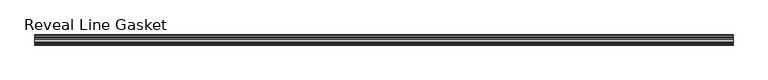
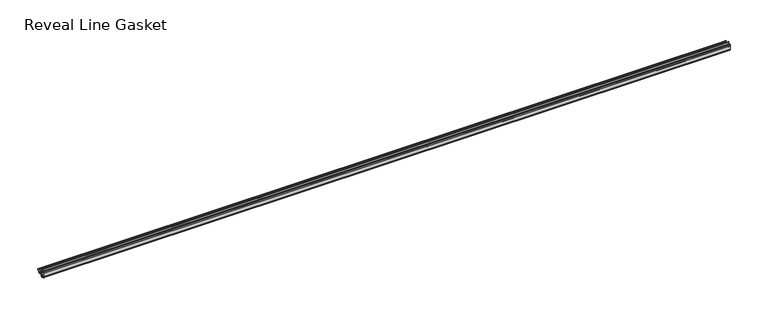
"""IFC4 building model written with IfcOpenShell, lengths in millimetres: proxy geometry, Accessories-Teknion-FHGR-AI_Healthcare-Reveal_Line_Gasket(Horizontal)-R2022 : Reveal Line Gasket."""

from ifc_helpers import new_model, si_unit, point, frame, frame_2d, origin, place, context, project, spatial, polyline, circle_curve, trimmed, segment, composite_curve, outline, extrude, source, transform, mapped, element, save


def reveal_line_gasket_23a5082f(model_context):
    return source(origin(), model_context, "Body", "SweptSolid", [
        extrude(outline(composite_curve([segment(polyline([(-7.6326998, 1603.2), (-7.4091917, 1604.1554927), (-6.8813059, 1605.0884684)]), True, "CONTINUOUS"), segment(trimmed(circle_curve(frame_2d((-6.5243141, 1604.8864793)), 0.4101739), [point((-6.8813059, 1605.0884684))], [point((-6.1246704, 1604.7941347))], False, "CARTESIAN"), True, "CONTINUOUS"), segment(polyline([(-6.1246704, 1604.7941347), (-6.3626997, 1603.0979086), (-6.3626997, 1601.0654527)]), True, "CONTINUOUS"), segment(trimmed(circle_curve(frame_2d((-5.6959605, 1601.4819258)), 0.786124), [point((-6.3626997, 1601.0654527))], [point((-5.0926996, 1600.977875))], True, "CARTESIAN"), True, "CONTINUOUS"), segment(polyline([(-5.0926996, 1600.977875), (-0.7492996, 1600.977875), (-3.7293824, 1606.1395295)]), True, "CONTINUOUS"), segment(trimmed(circle_curve(frame_2d((-3.3132479, 1606.2049761)), 0.4212495), [point((-3.7293824, 1606.1395295))], [point((-3.0485022, 1606.5326358))], False, "CARTESIAN"), True, "CONTINUOUS"), segment(polyline([(-3.0485022, 1606.5326358), (0.5742594, 1600.977875), (4.8262978, 1600.977875), (3.1660374, 1603.8535297)]), True, "CONTINUOUS"), segment(trimmed(circle_curve(frame_2d((3.5978728, 1603.9118855)), 0.4357605), [point((3.1660374, 1603.8535297))], [point((3.864328, 1604.2566881))], False, "CARTESIAN"), True, "CONTINUOUS"), segment(polyline([(3.864328, 1604.2566881), (6.1944059, 1600.977875), (7.6326998, 1600.977875), (7.6326998, 1599.422125), (6.1944059, 1599.422125), (3.864328, 1596.1433119)]), True, "CONTINUOUS"), segment(trimmed(circle_curve(frame_2d((3.5978728, 1596.4881145)), 0.4357605), [point((3.864328, 1596.1433119))], [point((3.1660374, 1596.5464703))], False, "CARTESIAN"), True, "CONTINUOUS"), segment(polyline([(3.1660374, 1596.5464703), (4.8262978, 1599.422125), (0.5742594, 1599.422125), (-3.0485022, 1593.8673642)]), True, "CONTINUOUS"), segment(trimmed(circle_curve(frame_2d((-3.3132479, 1594.1950239)), 0.4212495), [point((-3.0485022, 1593.8673642))], [point((-3.7293824, 1594.2604705))], False, "CARTESIAN"), True, "CONTINUOUS"), segment(polyline([(-3.7293824, 1594.2604705), (-0.7492996, 1599.422125), (-5.0926996, 1599.422125)]), True, "CONTINUOUS"), segment(trimmed(circle_curve(frame_2d((-5.6959605, 1598.9180742)), 0.786124), [point((-5.0926996, 1599.422125))], [point((-6.3626997, 1599.3345473))], True, "CARTESIAN"), True, "CONTINUOUS"), segment(polyline([(-6.3626997, 1599.3345473), (-6.3626997, 1597.3020914), (-6.1246704, 1595.6058653)]), True, "CONTINUOUS"), segment(trimmed(circle_curve(frame_2d((-6.5243141, 1595.5135207)), 0.4101739), [point((-6.1246704, 1595.6058653))], [point((-6.8813059, 1595.3115316))], False, "CARTESIAN"), True, "CONTINUOUS"), segment(polyline([(-6.8813059, 1595.3115316), (-7.4091917, 1596.2445073), (-7.6326998, 1597.2), (-7.6326998, 1603.2)]), True, "CONTINUOUS")], self_intersect=False)), frame((-525.1749999, 0.0, 0.0), z_axis=(1.0, 0.0, 0.0), x_axis=(0.0, 1.0, 0.0)), (0.0, 0.0, 1.0), 1050.3499999),
    ])


if __name__ == "__main__":
    model = new_model("IFC4")
    model_context = context("Model", 3, world=origin())
    ifc_project = project(units=[si_unit("LENGTHUNIT", "METRE", prefix="MILLI")], contexts=[model_context])
    site = spatial("IfcSite", under=ifc_project)
    building = spatial("IfcBuilding", under=site)
    placement = place(None, origin())
    reveal_line_gasket_shape = reveal_line_gasket_23a5082f(model_context)
    element("IfcBuildingElementProxy", 1, Name="Accessories-Teknion-FHGR-AI_Healthcare-Reveal_Line_Gasket(Horizontal)-R2022 : Reveal Line Gasket", ObjectType="Accessories-Teknion-FHGR-AI_Healthcare-Reveal_Line_Gasket(Horizontal)-R2022 : Reveal Line Gasket", at=placement, inside=building, context=model_context, shape_type="MappedRepresentation", body=[
        mapped(reveal_line_gasket_shape, transform((0.0, 0.0, 0.0), x_axis=(1.0, 0.0, 0.0), y_axis=(0.0, 1.0, 0.0), z_axis=(0.0, 0.0, 1.0))),
    ])
    save(model, "model.ifc")
